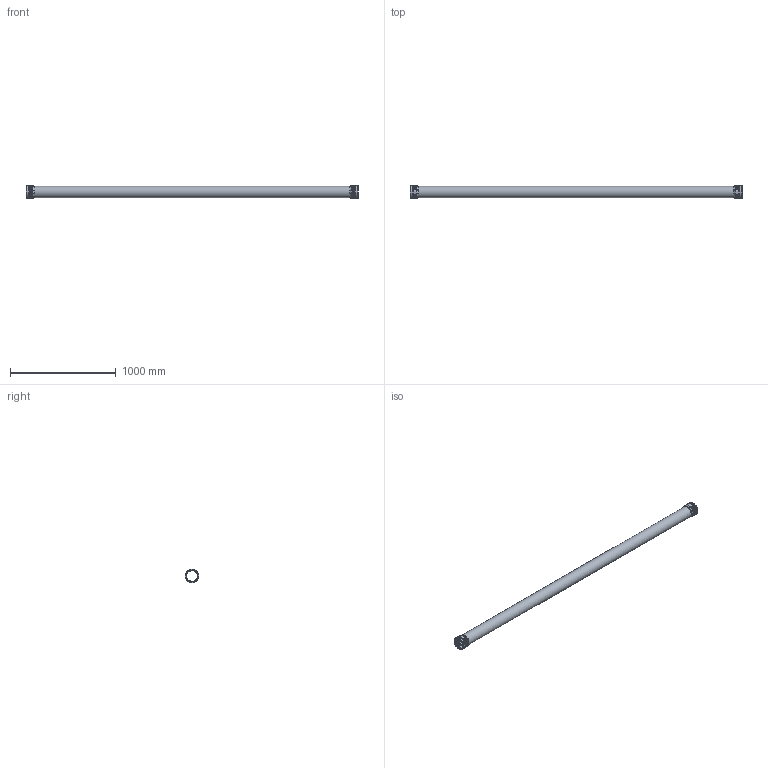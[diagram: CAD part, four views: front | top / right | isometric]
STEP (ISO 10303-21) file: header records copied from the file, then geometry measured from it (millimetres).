
FILE_DESCRIPTION(/* description */ (''),/* implementation_level */ '2;1');
FILE_NAME(/* name */ 'H:\Geberit-Teile\Export\PP_Rohr 2 Muffen_TEST\stp\393514.stp',/* time_stamp */ '2017-02-13T17:11:50+01:00',/* author */ ('seihe2'),/* organization */ (''),/* preprocessor_version */ 'ST-DEVELOPER v15.2',/* originating_system */ 'Autodesk Inventor 2014',/* authorisation */ '');
FILE_SCHEMA (('AUTOMOTIVE_DESIGN { 1 0 10303 214 3 1 1 }'));
Length unit declared in the file: millimetre
Products named in the file (1): 393514
Bounding box: 3136.2 x 128.7 x 128.7 mm (x, y, z)
Volume: 4754222.8 mm3; surface area: 2135362.9 mm2
Topology: 3 solids, 3 shells, 70 faces, 152 edges, 106 vertices
Faces by surface type: torus 34, cylinder 18, plane 14, bspline 2, cone 2
Full cylindrical faces by diameter (mm): 101.2 x3, 110.2 x3, 111.1 x2, 113.7 x2, 119.5 x2, 121.3 x2, 122.1 x2, 128.7 x2
Entity records: 4068 total; most frequent: CARTESIAN_POINT 2649, ORIENTED_EDGE 236, DIRECTION 234, EDGE_LOOP 126, EDGE_CURVE 118, AXIS2_PLACEMENT_3D 117, VERTEX_POINT 104, STYLED_ITEM 73
